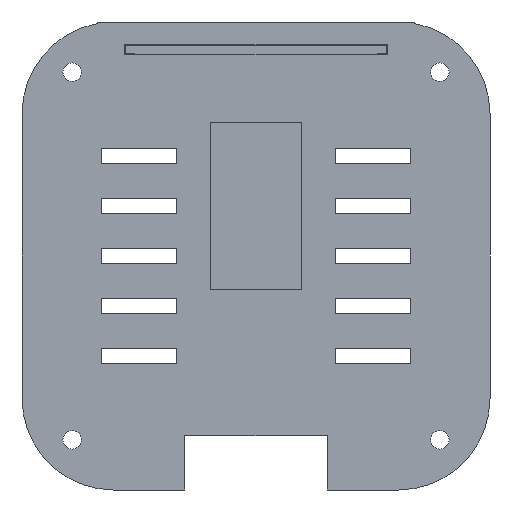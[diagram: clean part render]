
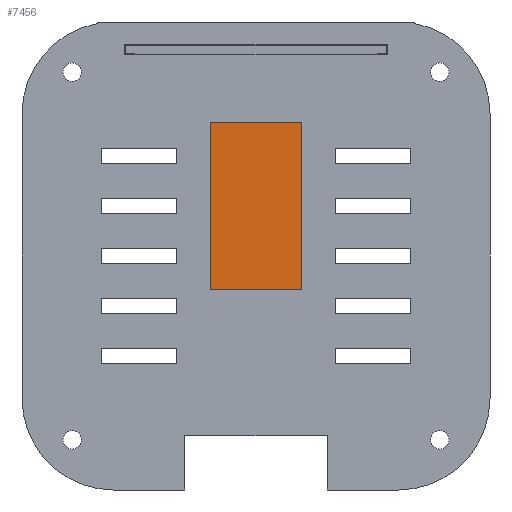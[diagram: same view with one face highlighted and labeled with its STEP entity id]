
A CAD part, front view. The second image highlights one B-rep face of the part: STEP entity #7456.
In plain terms, the highlighted planar face has unit normal (0, -1, 0).
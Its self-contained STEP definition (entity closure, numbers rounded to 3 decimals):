
#2946 = PLANE('',#2947);
#2947 = AXIS2_PLACEMENT_3D('',#2948,#2949,#2950);
#2948 = CARTESIAN_POINT('',(-5.5,-22.,78.));
#2949 = DIRECTION('',(0.,0.,1.));
#2950 = DIRECTION('',(1.,0.,0.));
#2998 = PLANE('',#2999);
#2999 = AXIS2_PLACEMENT_3D('',#3000,#3001,#3002);
#3000 = CARTESIAN_POINT('',(-5.5,-22.,58.));
#3001 = DIRECTION('',(0.,0.,1.));
#3002 = DIRECTION('',(1.,0.,0.));
#5587 = VERTEX_POINT('',#5588);
#5588 = CARTESIAN_POINT('',(-5.5,-22.,78.));
#5602 = PLANE('',#5603);
#5603 = AXIS2_PLACEMENT_3D('',#5604,#5605,#5606);
#5604 = CARTESIAN_POINT('',(-5.5,-22.,58.));
#5605 = DIRECTION('',(1.,0.,0.));
#5606 = DIRECTION('',(0.,0.,1.));
#5614 = EDGE_CURVE('',#5587,#5615,#5617,.T.);
#5615 = VERTEX_POINT('',#5616);
#5616 = CARTESIAN_POINT('',(5.5,-22.,78.));
#5617 = SURFACE_CURVE('',#5618,(#5622,#5629),.PCURVE_S1.);
#5618 = LINE('',#5619,#5620);
#5619 = CARTESIAN_POINT('',(-5.5,-22.,78.));
#5620 = VECTOR('',#5621,1.);
#5621 = DIRECTION('',(1.,0.,0.));
#5622 = PCURVE('',#2946,#5623);
#5623 = DEFINITIONAL_REPRESENTATION('',(#5624),#5628);
#5624 = LINE('',#5625,#5626);
#5625 = CARTESIAN_POINT('',(0.,0.));
#5626 = VECTOR('',#5627,1.);
#5627 = DIRECTION('',(1.,0.));
#5628 = ( GEOMETRIC_REPRESENTATION_CONTEXT(2) 
PARAMETRIC_REPRESENTATION_CONTEXT() REPRESENTATION_CONTEXT('2D SPACE',''
  ) );
#5629 = PCURVE('',#5630,#5635);
#5630 = PLANE('',#5631);
#5631 = AXIS2_PLACEMENT_3D('',#5632,#5633,#5634);
#5632 = CARTESIAN_POINT('',(-5.5,-22.,58.));
#5633 = DIRECTION('',(0.,1.,0.));
#5634 = DIRECTION('',(0.,0.,1.));
#5635 = DEFINITIONAL_REPRESENTATION('',(#5636),#5640);
#5636 = LINE('',#5637,#5638);
#5637 = CARTESIAN_POINT('',(20.,0.));
#5638 = VECTOR('',#5639,1.);
#5639 = DIRECTION('',(0.,1.));
#5640 = ( GEOMETRIC_REPRESENTATION_CONTEXT(2) 
PARAMETRIC_REPRESENTATION_CONTEXT() REPRESENTATION_CONTEXT('2D SPACE',''
  ) );
#5658 = PLANE('',#5659);
#5659 = AXIS2_PLACEMENT_3D('',#5660,#5661,#5662);
#5660 = CARTESIAN_POINT('',(5.5,-22.,58.));
#5661 = DIRECTION('',(1.,0.,0.));
#5662 = DIRECTION('',(0.,0.,1.));
#5817 = VERTEX_POINT('',#5818);
#5818 = CARTESIAN_POINT('',(-5.5,-22.,58.));
#5839 = EDGE_CURVE('',#5817,#5840,#5842,.T.);
#5840 = VERTEX_POINT('',#5841);
#5841 = CARTESIAN_POINT('',(5.5,-22.,58.));
#5842 = SURFACE_CURVE('',#5843,(#5847,#5854),.PCURVE_S1.);
#5843 = LINE('',#5844,#5845);
#5844 = CARTESIAN_POINT('',(-5.5,-22.,58.));
#5845 = VECTOR('',#5846,1.);
#5846 = DIRECTION('',(1.,0.,0.));
#5847 = PCURVE('',#2998,#5848);
#5848 = DEFINITIONAL_REPRESENTATION('',(#5849),#5853);
#5849 = LINE('',#5850,#5851);
#5850 = CARTESIAN_POINT('',(0.,0.));
#5851 = VECTOR('',#5852,1.);
#5852 = DIRECTION('',(1.,0.));
#5853 = ( GEOMETRIC_REPRESENTATION_CONTEXT(2) 
PARAMETRIC_REPRESENTATION_CONTEXT() REPRESENTATION_CONTEXT('2D SPACE',''
  ) );
#5854 = PCURVE('',#5630,#5855);
#5855 = DEFINITIONAL_REPRESENTATION('',(#5856),#5860);
#5856 = LINE('',#5857,#5858);
#5857 = CARTESIAN_POINT('',(0.,0.));
#5858 = VECTOR('',#5859,1.);
#5859 = DIRECTION('',(0.,1.));
#5860 = ( GEOMETRIC_REPRESENTATION_CONTEXT(2) 
PARAMETRIC_REPRESENTATION_CONTEXT() REPRESENTATION_CONTEXT('2D SPACE',''
  ) );
#7433 = EDGE_CURVE('',#5840,#5615,#7434,.T.);
#7434 = SURFACE_CURVE('',#7435,(#7439,#7446),.PCURVE_S1.);
#7435 = LINE('',#7436,#7437);
#7436 = CARTESIAN_POINT('',(5.5,-22.,58.));
#7437 = VECTOR('',#7438,1.);
#7438 = DIRECTION('',(0.,0.,1.));
#7439 = PCURVE('',#5658,#7440);
#7440 = DEFINITIONAL_REPRESENTATION('',(#7441),#7445);
#7441 = LINE('',#7442,#7443);
#7442 = CARTESIAN_POINT('',(0.,0.));
#7443 = VECTOR('',#7444,1.);
#7444 = DIRECTION('',(1.,0.));
#7445 = ( GEOMETRIC_REPRESENTATION_CONTEXT(2) 
PARAMETRIC_REPRESENTATION_CONTEXT() REPRESENTATION_CONTEXT('2D SPACE',''
  ) );
#7446 = PCURVE('',#5630,#7447);
#7447 = DEFINITIONAL_REPRESENTATION('',(#7448),#7452);
#7448 = LINE('',#7449,#7450);
#7449 = CARTESIAN_POINT('',(0.,11.));
#7450 = VECTOR('',#7451,1.);
#7451 = DIRECTION('',(1.,0.));
#7452 = ( GEOMETRIC_REPRESENTATION_CONTEXT(2) 
PARAMETRIC_REPRESENTATION_CONTEXT() REPRESENTATION_CONTEXT('2D SPACE',''
  ) );
#7456 = ADVANCED_FACE('',(#7457),#5630,.F.);
#7457 = FACE_BOUND('',#7458,.F.);
#7458 = EDGE_LOOP('',(#7459,#7460,#7481,#7482));
#7459 = ORIENTED_EDGE('',*,*,#5839,.F.);
#7460 = ORIENTED_EDGE('',*,*,#7461,.T.);
#7461 = EDGE_CURVE('',#5817,#5587,#7462,.T.);
#7462 = SURFACE_CURVE('',#7463,(#7467,#7474),.PCURVE_S1.);
#7463 = LINE('',#7464,#7465);
#7464 = CARTESIAN_POINT('',(-5.5,-22.,58.));
#7465 = VECTOR('',#7466,1.);
#7466 = DIRECTION('',(0.,0.,1.));
#7467 = PCURVE('',#5630,#7468);
#7468 = DEFINITIONAL_REPRESENTATION('',(#7469),#7473);
#7469 = LINE('',#7470,#7471);
#7470 = CARTESIAN_POINT('',(0.,0.));
#7471 = VECTOR('',#7472,1.);
#7472 = DIRECTION('',(1.,0.));
#7473 = ( GEOMETRIC_REPRESENTATION_CONTEXT(2) 
PARAMETRIC_REPRESENTATION_CONTEXT() REPRESENTATION_CONTEXT('2D SPACE',''
  ) );
#7474 = PCURVE('',#5602,#7475);
#7475 = DEFINITIONAL_REPRESENTATION('',(#7476),#7480);
#7476 = LINE('',#7477,#7478);
#7477 = CARTESIAN_POINT('',(0.,0.));
#7478 = VECTOR('',#7479,1.);
#7479 = DIRECTION('',(1.,0.));
#7480 = ( GEOMETRIC_REPRESENTATION_CONTEXT(2) 
PARAMETRIC_REPRESENTATION_CONTEXT() REPRESENTATION_CONTEXT('2D SPACE',''
  ) );
#7481 = ORIENTED_EDGE('',*,*,#5614,.T.);
#7482 = ORIENTED_EDGE('',*,*,#7433,.F.);
